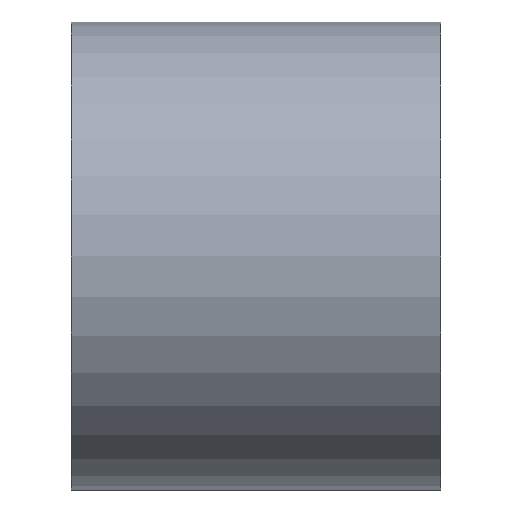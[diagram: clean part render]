
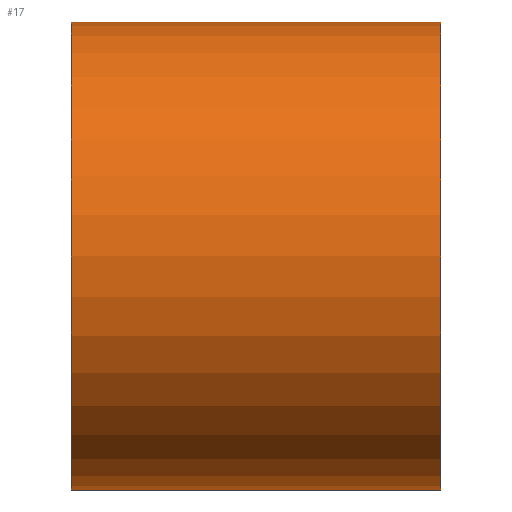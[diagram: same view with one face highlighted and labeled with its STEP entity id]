
A CAD part, front view. The second image highlights one B-rep face of the part: STEP entity #17.
In plain terms, the highlighted cylindrical face has radius 38.1 mm (diameter 76.2 mm), a full revolution.
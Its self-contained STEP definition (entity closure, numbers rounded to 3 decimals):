
#17 = ADVANCED_FACE('',(#18),#32,.T.);
#18 = FACE_BOUND('',#19,.F.);
#19 = EDGE_LOOP('',(#20,#50,#77,#78));
#20 = ORIENTED_EDGE('',*,*,#21,.T.);
#21 = EDGE_CURVE('',#22,#24,#26,.T.);
#22 = VERTEX_POINT('',#23);
#23 = CARTESIAN_POINT('',(31.,38.1,0.));
#24 = VERTEX_POINT('',#25);
#25 = CARTESIAN_POINT('',(91.2,38.1,0.));
#26 = SEAM_CURVE('',#27,(#31,#43),.PCURVE_S1.);
#27 = LINE('',#28,#29);
#28 = CARTESIAN_POINT('',(31.,38.1,0.));
#29 = VECTOR('',#30,1.);
#30 = DIRECTION('',(1.,0.,0.));
#31 = PCURVE('',#32,#37);
#32 = CYLINDRICAL_SURFACE('',#33,38.1);
#33 = AXIS2_PLACEMENT_3D('',#34,#35,#36);
#34 = CARTESIAN_POINT('',(31.,0.,0.));
#35 = DIRECTION('',(-1.,-0.,-0.));
#36 = DIRECTION('',(0.,1.,0.));
#37 = DEFINITIONAL_REPRESENTATION('',(#38),#42);
#38 = LINE('',#39,#40);
#39 = CARTESIAN_POINT('',(-0.,0.));
#40 = VECTOR('',#41,1.);
#41 = DIRECTION('',(-0.,-1.));
#42 = ( GEOMETRIC_REPRESENTATION_CONTEXT(2) 
PARAMETRIC_REPRESENTATION_CONTEXT() REPRESENTATION_CONTEXT('2D SPACE',''
  ) );
#43 = PCURVE('',#32,#44);
#44 = DEFINITIONAL_REPRESENTATION('',(#45),#49);
#45 = LINE('',#46,#47);
#46 = CARTESIAN_POINT('',(-6.283,0.));
#47 = VECTOR('',#48,1.);
#48 = DIRECTION('',(-0.,-1.));
#49 = ( GEOMETRIC_REPRESENTATION_CONTEXT(2) 
PARAMETRIC_REPRESENTATION_CONTEXT() REPRESENTATION_CONTEXT('2D SPACE',''
  ) );
#50 = ORIENTED_EDGE('',*,*,#51,.T.);
#51 = EDGE_CURVE('',#24,#24,#52,.T.);
#52 = SURFACE_CURVE('',#53,(#58,#65),.PCURVE_S1.);
#53 = CIRCLE('',#54,38.1);
#54 = AXIS2_PLACEMENT_3D('',#55,#56,#57);
#55 = CARTESIAN_POINT('',(91.2,0.,0.));
#56 = DIRECTION('',(1.,0.,0.));
#57 = DIRECTION('',(0.,1.,0.));
#58 = PCURVE('',#32,#59);
#59 = DEFINITIONAL_REPRESENTATION('',(#60),#64);
#60 = LINE('',#61,#62);
#61 = CARTESIAN_POINT('',(-0.,-60.2));
#62 = VECTOR('',#63,1.);
#63 = DIRECTION('',(-1.,0.));
#64 = ( GEOMETRIC_REPRESENTATION_CONTEXT(2) 
PARAMETRIC_REPRESENTATION_CONTEXT() REPRESENTATION_CONTEXT('2D SPACE',''
  ) );
#65 = PCURVE('',#66,#71);
#66 = PLANE('',#67);
#67 = AXIS2_PLACEMENT_3D('',#68,#69,#70);
#68 = CARTESIAN_POINT('',(91.2,0.,0.));
#69 = DIRECTION('',(1.,0.,0.));
#70 = DIRECTION('',(-0.,0.,1.));
#71 = DEFINITIONAL_REPRESENTATION('',(#72),#76);
#72 = CIRCLE('',#73,38.1);
#73 = AXIS2_PLACEMENT_2D('',#74,#75);
#74 = CARTESIAN_POINT('',(0.,0.));
#75 = DIRECTION('',(0.,-1.));
#76 = ( GEOMETRIC_REPRESENTATION_CONTEXT(2) 
PARAMETRIC_REPRESENTATION_CONTEXT() REPRESENTATION_CONTEXT('2D SPACE',''
  ) );
#77 = ORIENTED_EDGE('',*,*,#21,.F.);
#78 = ORIENTED_EDGE('',*,*,#79,.F.);
#79 = EDGE_CURVE('',#22,#22,#80,.T.);
#80 = SURFACE_CURVE('',#81,(#86,#93),.PCURVE_S1.);
#81 = CIRCLE('',#82,38.1);
#82 = AXIS2_PLACEMENT_3D('',#83,#84,#85);
#83 = CARTESIAN_POINT('',(31.,0.,0.));
#84 = DIRECTION('',(1.,0.,0.));
#85 = DIRECTION('',(0.,1.,0.));
#86 = PCURVE('',#32,#87);
#87 = DEFINITIONAL_REPRESENTATION('',(#88),#92);
#88 = LINE('',#89,#90);
#89 = CARTESIAN_POINT('',(-0.,0.));
#90 = VECTOR('',#91,1.);
#91 = DIRECTION('',(-1.,0.));
#92 = ( GEOMETRIC_REPRESENTATION_CONTEXT(2) 
PARAMETRIC_REPRESENTATION_CONTEXT() REPRESENTATION_CONTEXT('2D SPACE',''
  ) );
#93 = PCURVE('',#94,#99);
#94 = PLANE('',#95);
#95 = AXIS2_PLACEMENT_3D('',#96,#97,#98);
#96 = CARTESIAN_POINT('',(31.,0.,0.));
#97 = DIRECTION('',(1.,0.,0.));
#98 = DIRECTION('',(-0.,0.,1.));
#99 = DEFINITIONAL_REPRESENTATION('',(#100),#104);
#100 = CIRCLE('',#101,38.1);
#101 = AXIS2_PLACEMENT_2D('',#102,#103);
#102 = CARTESIAN_POINT('',(0.,0.));
#103 = DIRECTION('',(0.,-1.));
#104 = ( GEOMETRIC_REPRESENTATION_CONTEXT(2) 
PARAMETRIC_REPRESENTATION_CONTEXT() REPRESENTATION_CONTEXT('2D SPACE',''
  ) );
